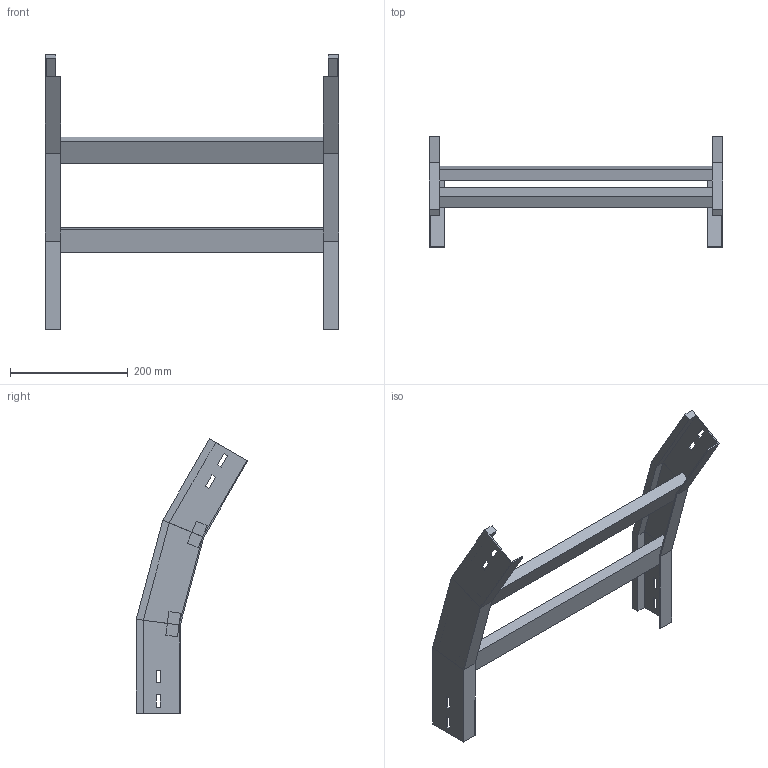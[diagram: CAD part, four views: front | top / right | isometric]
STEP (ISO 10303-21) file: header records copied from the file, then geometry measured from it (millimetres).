
FILE_DESCRIPTION (( 'STEP AP214' ), '1' );
FILE_NAME ('A2_35B3C500.step', '2025-02-21T14:49:57', ( '' ), ( '' ), 'SwSTEP 2.0', 'SolidWorks 2023', '' );
FILE_SCHEMA (( 'AUTOMOTIVE_DESIGN' ));
Length unit declared in the file: millimetre
Products named in the file (3): TRAVERSINO_500; LONGH.DISCESA_30°_H75_R300; A2_35B3C500
Assembly tree (5 placements, depth 2):
  A2_35B3C500
    LONGH.DISCESA_30°_H75_R300  x2
    TRAVERSINO_500  x3
Bounding box: 500 x 190.12 x 467.12 mm (x, y, z)
Volume: 1579466.1 mm3; surface area: 408160.5 mm2
Topology: 5 solids, 5 shells, 102 faces, 244 edges, 152 vertices
Faces by surface type: plane 102
Entity records: 1480 total; most frequent: CARTESIAN_POINT 244, ORIENTED_EDGE 232, DIRECTION 228, EDGE_CURVE 116, LINE 116, VECTOR 116, VERTEX_POINT 72, EDGE_LOOP 56
